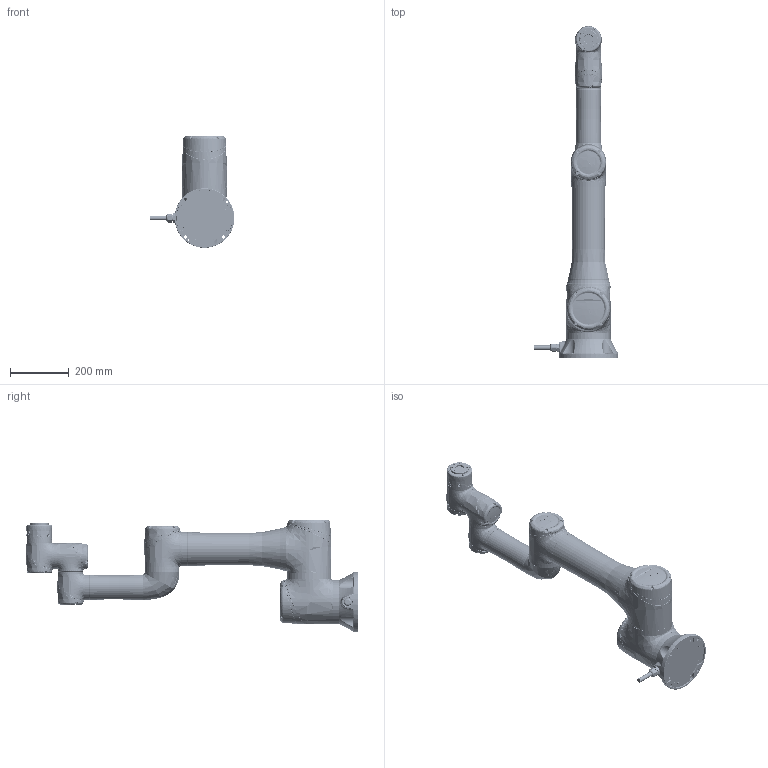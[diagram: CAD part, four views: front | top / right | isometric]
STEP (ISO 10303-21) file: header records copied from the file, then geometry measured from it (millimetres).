
FILE_DESCRIPTION((''),'2;1');
FILE_NAME('TM16-ROBOT-3D-CAD_ASM','2022-10-24T',('Jacque.Huang'),(''),'CREO PARAMETRIC BY PTC INC, 2015290','CREO PARAMETRIC BY PTC INC, 2015290','');
FILE_SCHEMA(('CONFIG_CONTROL_DESIGN'));
Products named in the file (9): BASE-TM16; J700-TM16; ARM1-TM16; J400-TM16; JOINT_L; J100-TM16; ARM2-TM16; IOMX; TM16-ROBOT-3D-CAD_ASM
Assembly tree (11 placements, depth 2):
  TM16-ROBOT-3D-CAD_ASM
    BASE-TM16
    J700-TM16  x2
    ARM1-TM16
    J400-TM16
    JOINT_L
    J100-TM16  x3
    ARM2-TM16
    IOMX
Bounding box: 287.26 x 1127.43 x 379.56 mm (x, y, z)
Volume: 9307169.8 mm3; surface area: 1828637.4 mm2
Topology: 17 solids, 36 shells, 7951 faces, 20397 edges, 12975 vertices
Faces by surface type: cylinder 2706, bspline 2153, plane 1999, cone 622, torus 375, revolution 57, sphere 22, extrusion 17
Entity records: 276576 total; most frequent: CARTESIAN_POINT 149708, ORIENTED_EDGE 28240, DIRECTION 23850, EDGE_CURVE 14120, AXIS2_PLACEMENT_3D 9511, VERTEX_POINT 9082, EDGE_LOOP 6170, FACE_OUTER_BOUND 5523
